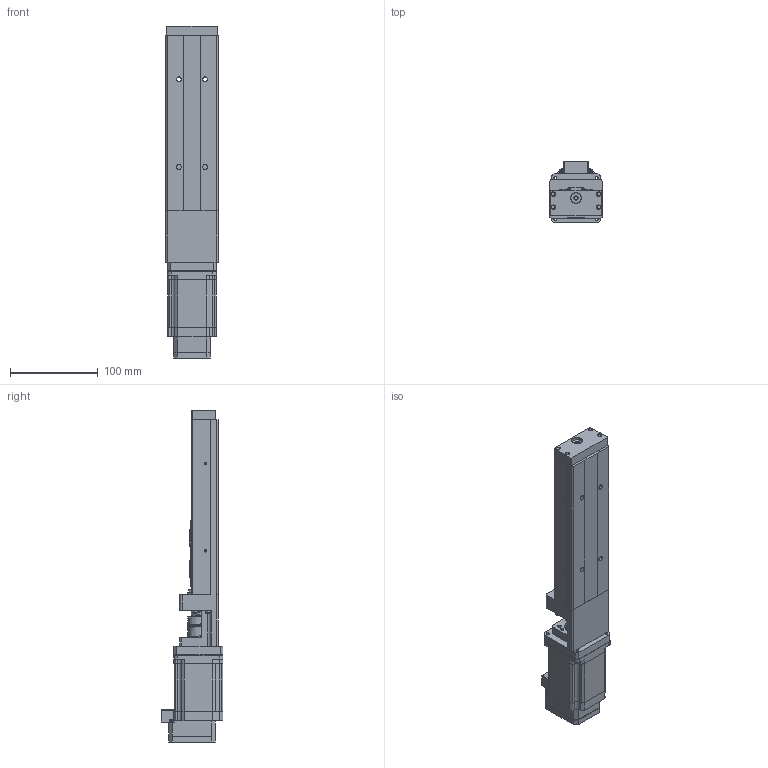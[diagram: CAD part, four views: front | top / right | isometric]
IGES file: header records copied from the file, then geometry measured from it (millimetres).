
Start section: SolidWorks IGES file using analytic representation for surfaces
Global section: file name: \\MYODRIVE\Public\CAD Files\Integrated-Actuators\PA-Series\PA33\PA33-A-06-100-S-00A0-23L20-X.IGS; native system: SolidWorks 2015; preprocessor: SolidWorks 2015; author: RENDER; date: 150106.095214; units: millimetre
Bounding box: 60 x 70.81 x 379.3 mm (x, y, z)
Surface area: 146629.9 mm2 (no closed solid volume)
Topology: 0 solids, 0 shells, 1731 faces, 19707 edges, 19599 vertices
Faces by surface type: bspline 1059, revolution 672
